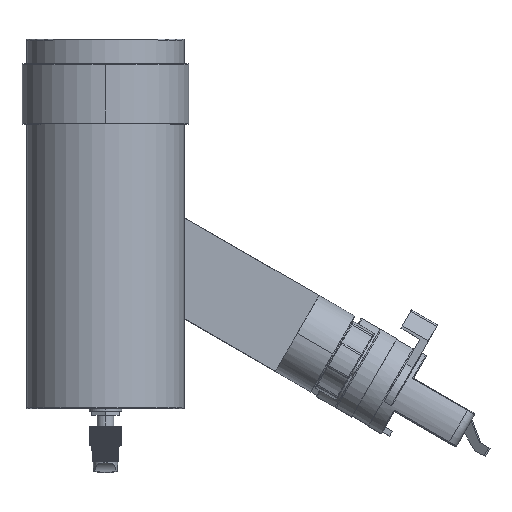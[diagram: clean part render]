
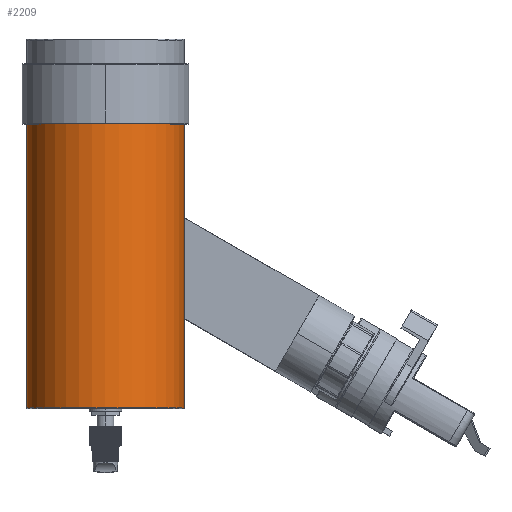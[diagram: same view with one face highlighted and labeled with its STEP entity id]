
A CAD part, top view. The second image highlights one B-rep face of the part: STEP entity #2209.
In plain terms, the highlighted cylindrical face has radius 28.75 mm (diameter 57.5 mm), a partial arc.
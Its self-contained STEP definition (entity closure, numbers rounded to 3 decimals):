
#614=DIRECTION('',(0.,1.,0.));
#615=VECTOR('',#614,111.7);
#616=CARTESIAN_POINT('',(28.75,0.3,0.));
#617=LINE('',#616,#615);
#698=CARTESIAN_POINT('',(0.,0.3,0.));
#699=DIRECTION('',(0.,-1.,0.));
#700=DIRECTION('',(1.,0.,0.));
#701=AXIS2_PLACEMENT_3D('',#698,#699,#700);
#706=DIRECTION('',(0.,1.,0.));
#707=VECTOR('',#706,111.7);
#708=CARTESIAN_POINT('',(-28.75,0.3,0.));
#709=LINE('',#708,#707);
#713=CARTESIAN_POINT('',(0.,112.,0.));
#714=DIRECTION('',(0.,1.,0.));
#715=DIRECTION('',(-1.,0.,0.));
#716=AXIS2_PLACEMENT_3D('',#713,#714,#715);
#1254=CARTESIAN_POINT('',(28.75,112.,0.));
#1255=CARTESIAN_POINT('',(-28.75,112.,0.));
#1256=VERTEX_POINT('',#1254);
#1257=VERTEX_POINT('',#1255);
#1326=CARTESIAN_POINT('',(28.75,0.3,0.));
#1327=CARTESIAN_POINT('',(-28.75,0.3,0.));
#1328=VERTEX_POINT('',#1326);
#1329=VERTEX_POINT('',#1327);
#2197=CARTESIAN_POINT('',(0.,0.,0.));
#2198=DIRECTION('',(0.,1.,0.));
#2199=DIRECTION('',(1.,0.,0.));
#2200=AXIS2_PLACEMENT_3D('',#2197,#2198,#2199);
#2201=CYLINDRICAL_SURFACE('',#2200,28.75);
#2202=ORIENTED_EDGE('',*,*,#2112,.T.);
#2203=ORIENTED_EDGE('',*,*,#2156,.T.);
#2205=ORIENTED_EDGE('',*,*,#2204,.T.);
#2206=ORIENTED_EDGE('',*,*,#2152,.F.);
#2207=EDGE_LOOP('',(#2202,#2203,#2205,#2206));
#2208=FACE_OUTER_BOUND('',#2207,.F.);
#702=CIRCLE('',#701,28.75);
#717=CIRCLE('',#716,28.75);
#2112=EDGE_CURVE('',#1328,#1329,#702,.T.);
#2152=EDGE_CURVE('',#1328,#1256,#617,.T.);
#2156=EDGE_CURVE('',#1329,#1257,#709,.T.);
#2204=EDGE_CURVE('',#1257,#1256,#717,.T.);
#2209=ADVANCED_FACE('',(#2208),#2201,.T.);
